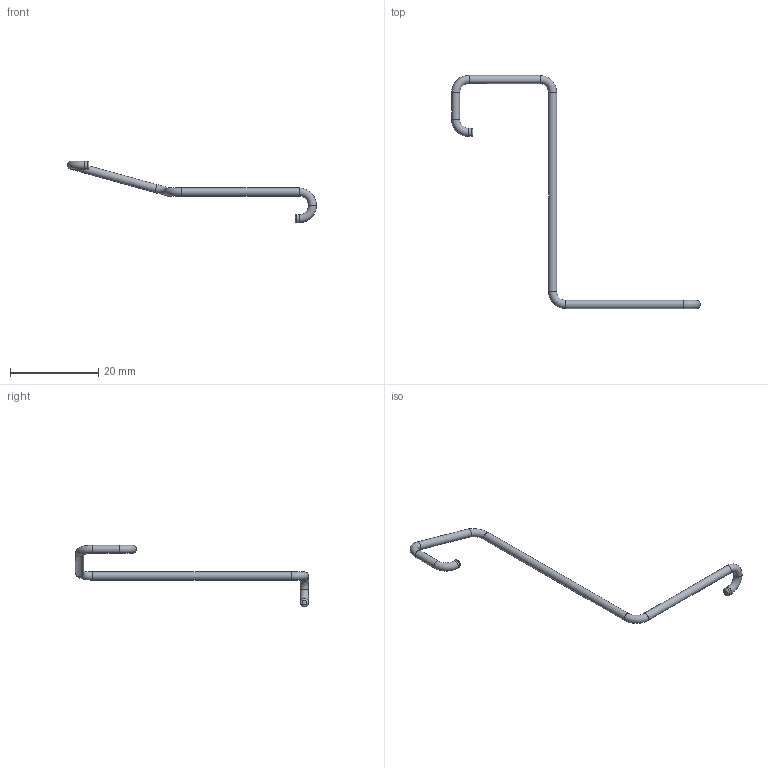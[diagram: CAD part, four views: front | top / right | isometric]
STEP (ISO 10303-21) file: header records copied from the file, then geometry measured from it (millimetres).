
FILE_DESCRIPTION(('Open CASCADE Model'),'2;1');
FILE_NAME('CUT_ROUTE_10_RADIAL_CLEARANCE_0p4','2026-09-15T14:21:47',( 'Author'),('Open CASCADE'),'Open CASCADE STEP processor 7.9', 'build123d','Unknown');
FILE_SCHEMA(('AUTOMOTIVE_DESIGN { 1 0 10303 214 1 1 1 1 }'));
Length unit declared in the file: millimetre
Products named in the file (1): CUT_ROUTE_10_RADIAL_CLEARANCE_0p4
Bounding box: 56.46 x 52.89 x 13.94 mm (x, y, z)
Volume: 334.5 mm3; surface area: 727.3 mm2
Topology: 1 solids, 1 shells, 17 faces, 31 edges, 16 vertices
Faces by surface type: torus 8, cylinder 7, plane 2
Full cylindrical faces by diameter (mm): 1.85 x7
Entity records: 805 total; most frequent: CARTESIAN_POINT 152, DIRECTION 128, ORIENTED_EDGE 62, PCURVE 62, DEFINITIONAL_REPRESENTATION 62, AXIS2_PLACEMENT_3D 42, LINE 42, VECTOR 42
